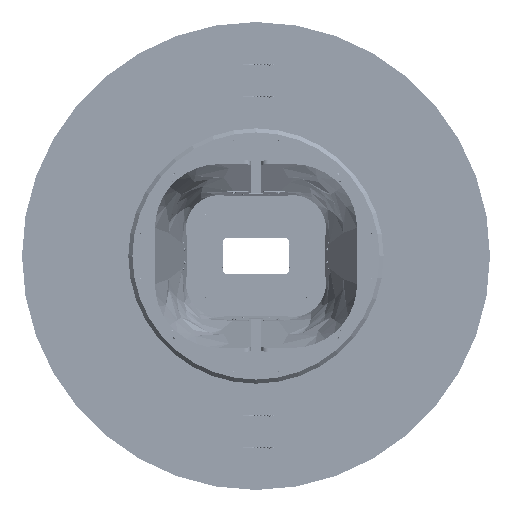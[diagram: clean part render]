
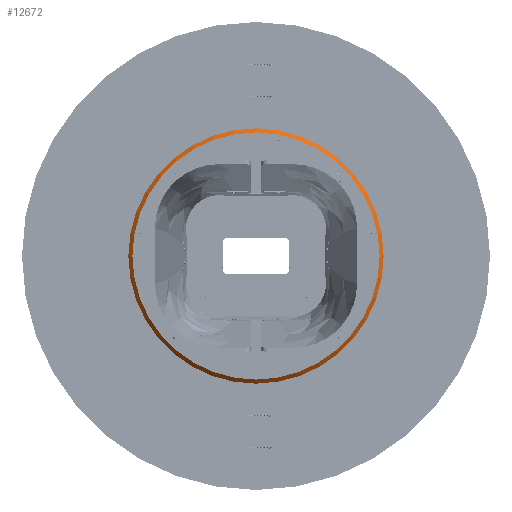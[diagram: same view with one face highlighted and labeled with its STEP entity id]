
A CAD part, front view. The second image highlights one B-rep face of the part: STEP entity #12672.
In plain terms, the highlighted conical face has half-angle 45 degrees and reference radius 600 mm.
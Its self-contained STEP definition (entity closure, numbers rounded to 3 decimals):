
#708 = EDGE_CURVE ( 'NONE', #30875, #30875, #29789, .T. ) ;
#1214 = CARTESIAN_POINT ( 'NONE',  ( 0., 9.5, 600. ) ) ;
#2116 = FACE_OUTER_BOUND ( 'NONE', #31550, .T. ) ;
#4159 = DIRECTION ( 'NONE',  ( 0., 1., 0. ) ) ;
#6474 = CONICAL_SURFACE ( 'NONE', #11905, 600., 0.785 ) ;
#7226 = DIRECTION ( 'NONE',  ( 0., -1., 0. ) ) ;
#7988 = CARTESIAN_POINT ( 'NONE',  ( 0., 9.5, 0. ) ) ;
#11905 = AXIS2_PLACEMENT_3D ( 'NONE', #30526, #17411, #27334 ) ;
#12645 = EDGE_CURVE ( 'NONE', #21712, #21712, #39005, .T. ) ;
#12672 = ADVANCED_FACE ( 'NONE', ( #40712, #2116 ), #6474, .T. ) ;
#17411 = DIRECTION ( 'NONE',  ( 0., 1., 0. ) ) ;
#18691 = EDGE_LOOP ( 'NONE', ( #33834 ) ) ;
#20160 = DIRECTION ( 'NONE',  ( 0., 0., 1. ) ) ;
#21712 = VERTEX_POINT ( 'NONE', #24885 ) ;
#23670 = DIRECTION ( 'NONE',  ( 0., 0., 1. ) ) ;
#24885 = CARTESIAN_POINT ( 'NONE',  ( 0., -9.5, 581. ) ) ;
#27334 = DIRECTION ( 'NONE',  ( 0., 0., 1. ) ) ;
#28817 = AXIS2_PLACEMENT_3D ( 'NONE', #35867, #7226, #20160 ) ;
#29789 = CIRCLE ( 'NONE', #35254, 600. ) ;
#30526 = CARTESIAN_POINT ( 'NONE',  ( 0., 9.5, 0. ) ) ;
#30875 = VERTEX_POINT ( 'NONE', #1214 ) ;
#31550 = EDGE_LOOP ( 'NONE', ( #41317 ) ) ;
#33834 = ORIENTED_EDGE ( 'NONE', *, *, #12645, .F. ) ;
#35254 = AXIS2_PLACEMENT_3D ( 'NONE', #7988, #4159, #23670 ) ;
#35867 = CARTESIAN_POINT ( 'NONE',  ( 0., -9.5, 0. ) ) ;
#39005 = CIRCLE ( 'NONE', #28817, 581. ) ;
#40712 = FACE_BOUND ( 'NONE', #18691, .T. ) ;
#41317 = ORIENTED_EDGE ( 'NONE', *, *, #708, .F. ) ;
